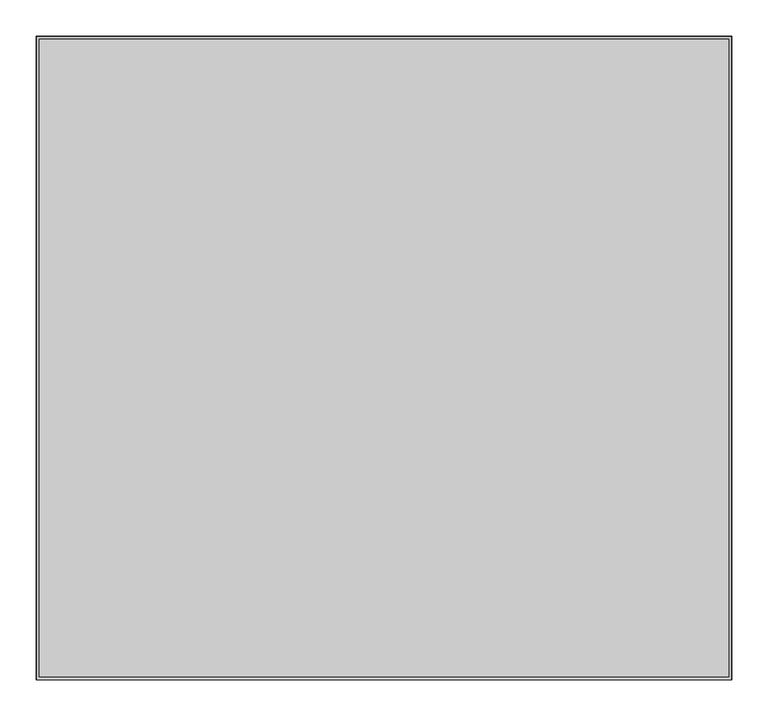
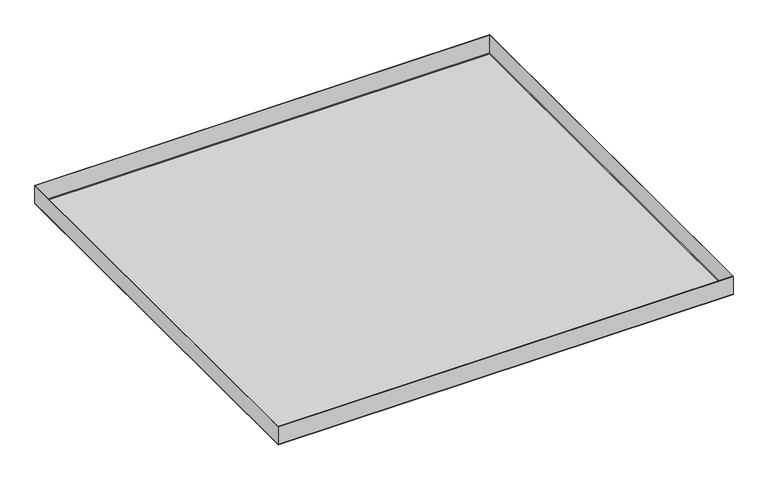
"""IFC4 building model written with IfcOpenShell, lengths in millimetres: proxy geometry, durlum_S7_panel : durlum_S7_panel_wall_width_cut."""

import ifcopenshell
import ifcopenshell.guid

model = None  # the IFC model being written
_history = None  # IfcOwnerHistory: only IFC2X3 demands one
_inside = {}  # id of a spatial element -> (the spatial element, [elements in it])
_under = {}  # id of a project, library or spatial element -> (it, [spatial elements below it])
_declared = {}  # id of a project -> (the project, [libraries it declares])
_typed = {}  # id of a type object -> (the type object, [elements of that type])
_made_of = {}  # id of a material, layer set ... -> (it, [elements and type objects made of it])


def new_model(schema):
    """Start an empty IFC model of exactly this schema.

    Asked for "IFC4X3", IfcOpenShell would pick the latest addendum, in which some entities
    have other attributes; the version numbers below select the first issue.
    IFC2X3 requires an IfcOwnerHistory on every rooted entity: one is made here for all.
    """
    global model, _history
    if schema == "IFC4X3":
        model = ifcopenshell.file(schema_version=(4, 3, 0, 0))
    else:
        model = ifcopenshell.file(schema=schema)
    _inside.clear()
    _under.clear()
    _declared.clear()
    _typed.clear()
    _made_of.clear()
    _history = None
    if model.schema == "IFC2X3":
        org = make("IfcOrganization", Name="unknown")
        user = make(
            "IfcPersonAndOrganization",
            ThePerson=make("IfcPerson", FamilyName="unknown"),
            TheOrganization=org,
        )
        app = make(
            "IfcApplication",
            ApplicationDeveloper=org,
            Version="unknown",
            ApplicationFullName="unknown",
            ApplicationIdentifier="unknown",
        )
        _history = make(
            "IfcOwnerHistory",
            OwningUser=user,
            OwningApplication=app,
            ChangeAction="ADDED",
            CreationDate=0,
        )
    return model


def make(cls, **values):
    """One entity of the class cls with the attributes given. An attribute that is None is left unset."""
    return model.create_entity(
        cls, **{name: value for name, value in values.items() if value is not None}
    )


def rooted(cls, **values):
    """An entity with a GlobalId (a new one), such as an element, a storey or a relation."""
    return make(cls, GlobalId=ifcopenshell.guid.new(), OwnerHistory=_history, **values)


def si_unit(unit_type, name, prefix=None):
    """IfcSIUnit, for example si_unit("LENGTHUNIT", "METRE", prefix="MILLI")."""
    return make("IfcSIUnit", UnitType=unit_type, Prefix=prefix, Name=name)


def assignment(units):
    """IfcUnitAssignment: the units of a project."""
    return None if units is None else make("IfcUnitAssignment", Units=units)


def point(xyz):
    """IfcCartesianPoint."""
    return None if xyz is None else make("IfcCartesianPoint", Coordinates=xyz)


def direction(xyz):
    """IfcDirection."""
    return None if xyz is None else make("IfcDirection", DirectionRatios=xyz)


def frame(location, z_axis=None, x_axis=None):
    """IfcAxis2Placement3D, a coordinate frame: its origin and axes. An axis left out is left unset."""
    return make(
        "IfcAxis2Placement3D",
        Location=point(location),
        Axis=direction(z_axis),
        RefDirection=direction(x_axis),
    )


def origin():
    """The frame at (0, 0, 0) with its axes left unset."""
    return frame((0.0, 0.0, 0.0))


def origin_with_axes():
    """The frame at (0, 0, 0) with the z axis (0, 0, 1) and the x axis (1, 0, 0) written out."""
    return frame((0.0, 0.0, 0.0), z_axis=(0.0, 0.0, 1.0), x_axis=(1.0, 0.0, 0.0))


def place(relative_to, where):
    """IfcLocalPlacement: puts the frame where relative to a parent placement (None: the world)."""
    return make(
        "IfcLocalPlacement", PlacementRelTo=relative_to, RelativePlacement=where
    )


def context(
    kind, dimensions, precision=None, world=None, true_north=None, identifier=None
):
    """IfcGeometricRepresentationContext, for example the 3D "Model" context."""
    return make(
        "IfcGeometricRepresentationContext",
        ContextIdentifier=identifier,
        ContextType=kind,
        CoordinateSpaceDimension=dimensions,
        Precision=precision,
        WorldCoordinateSystem=world,
        TrueNorth=true_north,
    )


def project(units=None, contexts=None):
    """IfcProject with its units and contexts."""
    return rooted(
        "IfcProject",
        Name="project",
        RepresentationContexts=contexts,
        UnitsInContext=assignment(units),
    )


def spatial(cls, under=None, at=None, **own):
    """A site, building, storey or space (cls), placed at a placement, below another one or the project."""
    s = rooted(cls, ObjectPlacement=at, **own)
    if under is not None:
        _under.setdefault(under.id(), (under, []))[1].append(s)
    return s


def polyline(points):
    """IfcPolyline through the points."""
    return make("IfcPolyline", Points=[point(p) for p in points])


def outline(outer, holes=None, kind="AREA"):
    """IfcArbitraryClosedProfileDef: a profile drawn as a closed curve; with holes, ...WithVoids."""
    if holes is None:
        return make("IfcArbitraryClosedProfileDef", ProfileType=kind, OuterCurve=outer)
    return make(
        "IfcArbitraryProfileDefWithVoids",
        ProfileType=kind,
        OuterCurve=outer,
        InnerCurves=holes,
    )


def extrude(swept, where, along, depth):
    """IfcExtrudedAreaSolid: the profile swept, set in the frame where, extruded along a direction by depth."""
    return make(
        "IfcExtrudedAreaSolid",
        SweptArea=swept,
        Position=where,
        ExtrudedDirection=direction(along),
        Depth=depth,
    )


def shape(context_of_items, identifier, shape_type, items):
    """IfcShapeRepresentation: the items that make up one representation, for example the "Body"."""
    return make(
        "IfcShapeRepresentation",
        ContextOfItems=context_of_items,
        RepresentationIdentifier=identifier,
        RepresentationType=shape_type,
        Items=items,
    )


def source(mapping_origin, context_of_items, identifier, shape_type, items):
    """IfcRepresentationMap: a shape defined once, which mapped items show again and again."""
    return make(
        "IfcRepresentationMap",
        MappingOrigin=mapping_origin,
        MappedRepresentation=shape(context_of_items, identifier, shape_type, items),
    )


def transform(
    local_origin,
    x_axis=None,
    y_axis=None,
    z_axis=None,
    scale=None,
    scale2=None,
    scale3=None,
    uniform=True,
):
    """IfcCartesianTransformationOperator3D, or its non-uniform kind. x_axis, y_axis, z_axis: its Axis1, 2, 3."""
    if uniform:
        return make(
            "IfcCartesianTransformationOperator3D",
            Axis1=direction(x_axis),
            Axis2=direction(y_axis),
            LocalOrigin=point(local_origin),
            Scale=scale,
            Axis3=direction(z_axis),
        )
    return make(
        "IfcCartesianTransformationOperator3DnonUniform",
        Axis1=direction(x_axis),
        Axis2=direction(y_axis),
        LocalOrigin=point(local_origin),
        Scale=scale,
        Axis3=direction(z_axis),
        Scale2=scale2,
        Scale3=scale3,
    )


def mapped(mapping_source, mapping_target):
    """IfcMappedItem: shows the shape of a source again, moved by a transform."""
    return make(
        "IfcMappedItem", MappingSource=mapping_source, MappingTarget=mapping_target
    )


def made_of(thing, what):
    """Note that an element or type object is made of a material, layer set ...; save() writes the relation."""
    if what is not None:
        _made_of.setdefault(what.id(), (what, []))[1].append(thing)
    return thing


def element(
    cls,
    number,
    at=None,
    inside=None,
    cuts=None,
    type_object=None,
    material=None,
    context=None,
    identifier="Body",
    shape_type=None,
    held_by="IfcProductDefinitionShape",
    body=None,
    shapes=None,
    **own,
):
    """One element of the class cls, such as IfcWall. Its Tag is "e" and its number.

    at: its placement. inside: the storey or other place that contains it. cuts: it is an
    opening in that element (IfcRelVoidsElement). A single representation is given by context,
    identifier, shape_type and body (its items); several are given by shapes. held_by: the class
    of the entity that holds the representations. save() writes the other relations.
    """
    e = rooted(cls, Tag="e%d" % number, ObjectPlacement=at, **own)
    if body is not None:
        shapes = [shape(context, identifier, shape_type, body)]
    if shapes is not None:
        e.Representation = make(held_by, Representations=shapes)
    if inside is not None:
        _inside.setdefault(inside.id(), (inside, []))[1].append(e)
    if cuts is not None:
        rooted(
            "IfcRelVoidsElement", RelatingBuildingElement=cuts, RelatedOpeningElement=e
        )
    if type_object is not None:
        _typed.setdefault(type_object.id(), (type_object, []))[1].append(e)
    return made_of(e, material)


def aggregate(whole, parts):
    """IfcRelAggregates: a whole, such as a stair, and the parts it consists of."""
    return rooted("IfcRelAggregates", RelatingObject=whole, RelatedObjects=parts)


def save(model, path):
    """Write the relations noted so far, then the file.

    IfcRelAggregates (storeys below a building ...), IfcRelContainedInSpatialStructure (elements
    in a storey), IfcRelDefinesByType, IfcRelAssociatesMaterial and IfcRelDeclares: one each for
    every whole, place, type object, material and project.
    """
    for whole, parts in _under.values():
        aggregate(whole, parts)
    for where, things in _inside.values():
        rooted(
            "IfcRelContainedInSpatialStructure",
            RelatedElements=things,
            RelatingStructure=where,
        )
    for kind, things in _typed.values():
        rooted("IfcRelDefinesByType", RelatedObjects=things, RelatingType=kind)
    for what, things in _made_of.values():
        rooted("IfcRelAssociatesMaterial", RelatedObjects=things, RelatingMaterial=what)
    for by, libraries in _declared.values():
        rooted("IfcRelDeclares", RelatingContext=by, RelatedDefinitions=libraries)
    model.write(path)


def generic_models_13996165(model_context):
    return source(origin(), model_context, "Body", "SweptSolid", [
        extrude(outline(polyline([(478.0, 442.5), (478.0, -442.5), (-478.0, -442.5), (-478.0, 442.5), (478.0, 442.5)]), holes=[polyline([(477.4, 441.9), (-477.4, 441.9), (-477.4, -441.9), (477.4, -441.9), (477.4, 441.9)])]), frame((0.0, 0.0, 0.6), z_axis=(0.0, 0.0, 1.0), x_axis=(1.0, 0.0, 0.0)), (0.0, 0.0, 1.0), 39.4),
        extrude(outline(polyline([(474.0, 438.5), (474.0, -438.5), (-474.0, -438.5), (-474.0, 438.5), (474.0, 438.5)])), frame((0.0, 0.0, 0.6), z_axis=(0.0, 0.0, 1.0), x_axis=(1.0, 0.0, 0.0)), (0.0, 0.0, 1.0), 0.6),
        extrude(outline(polyline([(478.0, 442.5), (478.0, -442.5), (-478.0, -442.5), (-478.0, 442.5), (478.0, 442.5)]), holes=[polyline([(474.0, 438.5), (-474.0, 438.5), (-474.0, -438.5), (474.0, -438.5), (474.0, 438.5)])]), origin_with_axes(), (0.0, 0.0, 1.0), 0.6),
        extrude(outline(polyline([(474.0, 438.5), (474.0, -438.5), (-474.0, -438.5), (-474.0, 438.5), (474.0, 438.5)])), origin_with_axes(), (0.0, 0.0, 1.0), 0.6),
    ])


if __name__ == "__main__":
    model = new_model("IFC4")
    model_context = context("Model", 3, world=origin())
    ifc_project = project(units=[si_unit("LENGTHUNIT", "METRE", prefix="MILLI")], contexts=[model_context])
    site = spatial("IfcSite", under=ifc_project)
    building = spatial("IfcBuilding", under=site)
    placement = place(None, origin())
    generic_models_shape = generic_models_13996165(model_context)
    element("IfcBuildingElementProxy", 1, Name="durlum_S7_panel : durlum_S7_panel_wall_width_cut", ObjectType="durlum_S7_panel : durlum_S7_panel_wall_width_cut", at=placement, inside=building, context=model_context, shape_type="MappedRepresentation", body=[
        mapped(generic_models_shape, transform((0.0, 0.0, 0.0), x_axis=(1.0, 0.0, 0.0), y_axis=(0.0, 1.0, 0.0), z_axis=(0.0, 0.0, 1.0))),
    ])
    save(model, "model.ifc")
